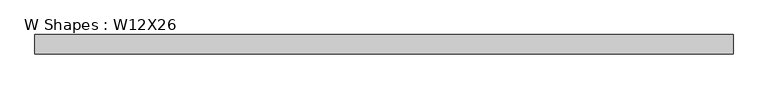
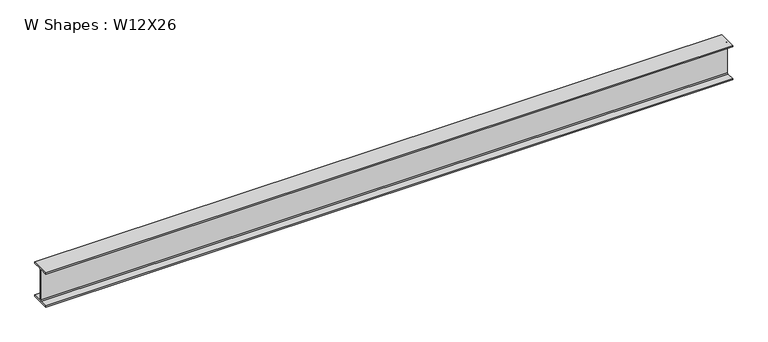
"""IFC4 building model written with IfcOpenShell, lengths in millimetres: beam geometry, W Shapes : W12X26."""

from ifc_helpers import new_model, si_unit, point, frame, frame_2d, origin, place, context, project, spatial, polyline, circle_curve, trimmed, segment, composite_curve, outline, extrude, source, transform, mapped, element, save


def w_shapes_w12x26_2928aa94(model_context):
    return source(origin(), model_context, "Body", "SweptSolid", [
        extrude(outline(composite_curve([segment(polyline([(82.423, -145.288), (82.423, -154.94), (-82.423, -154.94), (-82.423, -145.288), (-10.541, -145.288)]), True, "CONTINUOUS"), segment(trimmed(circle_curve(frame_2d((-10.541, -137.668)), 7.62), [point((-10.541, -145.288))], [point((-2.921, -137.668))], True, "CARTESIAN"), True, "CONTINUOUS"), segment(polyline([(-2.921, -137.668), (-2.921, 137.668)]), True, "CONTINUOUS"), segment(trimmed(circle_curve(frame_2d((-10.541, 137.668)), 7.62), [point((-2.921, 137.668))], [point((-10.541, 145.288))], True, "CARTESIAN"), True, "CONTINUOUS"), segment(polyline([(-10.541, 145.288), (-82.423, 145.288), (-82.423, 154.94), (82.423, 154.94), (82.423, 145.288), (10.541, 145.288)]), True, "CONTINUOUS"), segment(trimmed(circle_curve(frame_2d((10.541, 137.668)), 7.62), [point((10.541, 145.288))], [point((2.921, 137.668))], True, "CARTESIAN"), True, "CONTINUOUS"), segment(polyline([(2.921, 137.668), (2.921, -137.668)]), True, "CONTINUOUS"), segment(trimmed(circle_curve(frame_2d((10.541, -137.668)), 7.62), [point((2.921, -137.668))], [point((10.541, -145.288))], True, "CARTESIAN"), True, "CONTINUOUS"), segment(polyline([(10.541, -145.288), (82.423, -145.288)]), True, "CONTINUOUS")], self_intersect=False)), frame((-2905.379, 0.0, 0.0), z_axis=(1.0, 0.0, 0.0), x_axis=(0.0, 1.0, 0.0)), (0.0, 0.0, 1.0), 5908.929),
    ])


if __name__ == "__main__":
    model = new_model("IFC4")
    model_context = context("Model", 3, world=origin())
    ifc_project = project(units=[si_unit("LENGTHUNIT", "METRE", prefix="MILLI")], contexts=[model_context])
    site = spatial("IfcSite", under=ifc_project)
    building = spatial("IfcBuilding", under=site)
    placement = place(None, origin())
    w_shapes_w12x26_shape = w_shapes_w12x26_2928aa94(model_context)
    element("IfcBeam", 1, ObjectType="W Shapes : W12X26", at=placement, inside=building, context=model_context, shape_type="MappedRepresentation", body=[
        mapped(w_shapes_w12x26_shape, transform((0.0, 0.0, 0.0), x_axis=(1.0, 0.0, 0.0), y_axis=(0.0, 1.0, 0.0), z_axis=(0.0, 0.0, 1.0))),
    ])
    save(model, "model.ifc")
